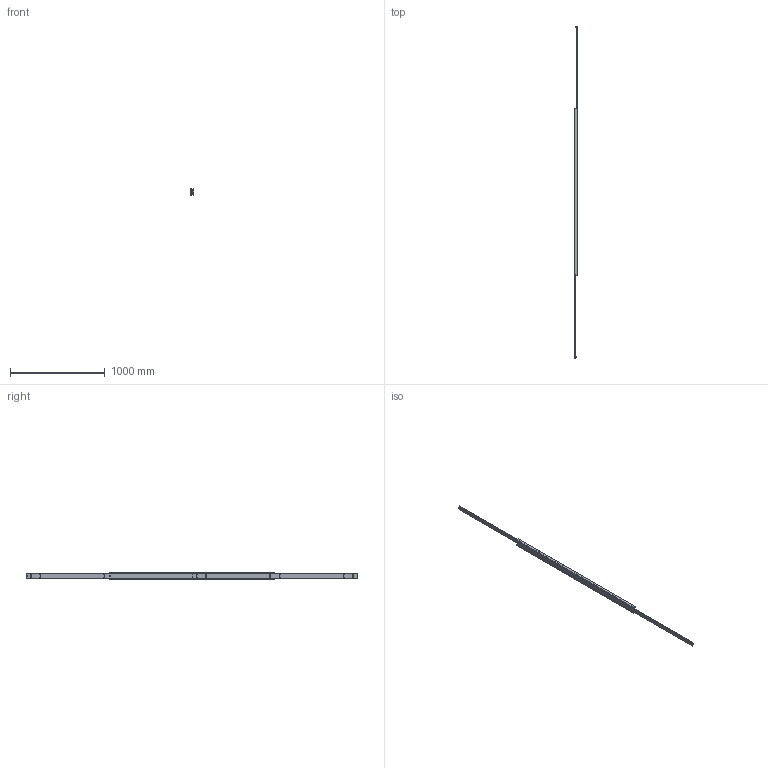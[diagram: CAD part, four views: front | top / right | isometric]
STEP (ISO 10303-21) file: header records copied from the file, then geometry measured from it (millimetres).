
FILE_DESCRIPTION(/* description */ (''),/* implementation_level */ '2;1');
FILE_NAME(/* name */ 'D:\Zeichnungen Schienen Komplett\MX-DTP70\MX-DTP70.175\MX-DTP70.175_ausgefahren.step',/* time_stamp */ '2022-08-31T08:07:22+02:00',/* author */ ('zmile'),/* organization */ (''),/* preprocessor_version */ 'ST-DEVELOPER v16.13',/* originating_system */ 'AutoCAD Mechanical',/* authorisation */ '');
FILE_SCHEMA (('AUTOMOTIVE_DESIGN { 1 0 10303 214 3 1 1 }'));
Products named in the file (1): Product
Bounding box: 32 x 3500 x 70 mm (x, y, z)
Volume: 3115444.8 mm3; surface area: 1109035.8 mm2
Topology: 123 solids, 123 shells, 450 faces, 1288 edges, 856 vertices
Faces by surface type: cylinder 156, sphere 116, plane 86, bspline 86, torus 6
Full cylindrical faces by diameter (mm): 9 x116, 13 x2
Entity records: 194537 total; most frequent: CARTESIAN_POINT 184103, ORIENTED_EDGE 1860, DIRECTION 1822, EDGE_CURVE 930, EDGE_LOOP 862, VERTEX_POINT 854, AXIS2_PLACEMENT_3D 805, FACE_OUTER_BOUND 450
